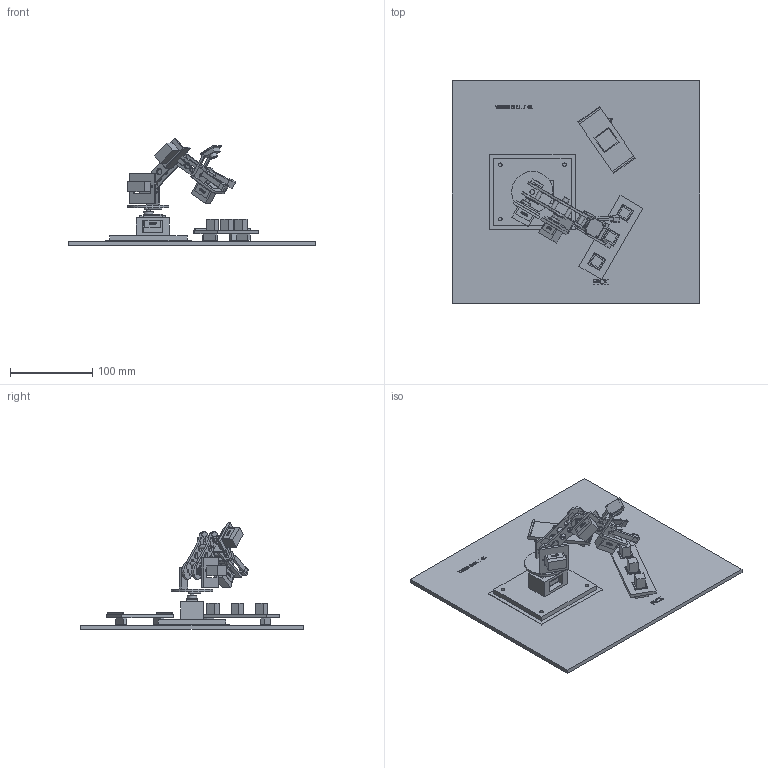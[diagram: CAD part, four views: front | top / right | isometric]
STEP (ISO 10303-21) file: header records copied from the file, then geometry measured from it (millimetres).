
FILE_DESCRIPTION(('Open CASCADE Model'),'2;1');
FILE_NAME('Open CASCADE Shape Model','2026-10-04T13:23:50',('Author'),( 'Open CASCADE'),'Open CASCADE STEP processor 7.8','Open CASCADE 7.8' ,'Unknown');
FILE_SCHEMA(('AUTOMOTIVE_DESIGN { 1 0 10303 214 1 1 1 1 }'));
Length unit declared in the file: millimetre
Products named in the file (65): SG90 arm with wrist camera; base; yaw-servo-cradle; S1-base-SG90; turntable; shoulder-mount; shoulder-idler-post; S2-shoulder-SG90; upper-cheek--7; upper-cheek-7; upper-spacer-12; upper-spacer-43; upper-idler; fore-cheek--7; fore-cheek-7; fore-spacer-12; fore-spacer-33; fore-idler; elbow-cradle; elbow-mount-bridge; S3-elbow-SG90; upper-supplied-horn; fore-supplied-horn; S4-gripper-SG90; gripper-cradle; gripper-horn; yaw-horn; S1-base-SG90-label; S1-base-SG90-label-text; S2-shoulder-SG90-label; S2-shoulder-SG90-label-text; S3-elbow-SG90-label; S3-elbow-SG90-label-text; S4-gripper-SG90-label; S4-gripper-SG90-label-text; vision-fixed-jaw; vision-moving-jaw; vision-fixed-pad; vision-moving-pad; camera-mount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
Assembly tree (64 placements, depth 2):
  SG90 arm with wrist camera
    base
    yaw-servo-cradle
    S1-base-SG90
    turntable
    shoulder-mount
    shoulder-idler-post
    S2-shoulder-SG90
    upper-cheek--7
    upper-cheek-7
    upper-spacer-12
    upper-spacer-43
    upper-idler
    fore-cheek--7
    fore-cheek-7
    fore-spacer-12
    fore-spacer-33
    fore-idler
    elbow-cradle
    elbow-mount-bridge
    S3-elbow-SG90
    upper-supplied-horn
    fore-supplied-horn
    S4-gripper-SG90
    gripper-cradle
    gripper-horn
    yaw-horn
    S1-base-SG90-label
    S1-base-SG90-label-text
    S2-shoulder-SG90-label
    S2-shoulder-SG90-label-text
    S3-elbow-SG90-label
    S3-elbow-SG90-label-text
    S4-gripper-SG90-label
    S4-gripper-SG90-label-text
    vision-fixed-jaw
    vision-moving-jaw
    vision-fixed-pad
    vision-moving-pad
    camera-mount
    camera-board
    camera-body
    camera-lens-barrel
    camera-optical-glass
    camera-status-led
    work-cell
    arm-plinth
    source-deck
    source-foot--40.0
    source-foot-40.0
    source-slot--34.0
    source-slot-0.0
    source-slot-34.0
    destination-deck
    destination-foot--28.0
    destination-foot-28.0
    destination-outline
    tray-rim--36
    tray-rim-36
    blue-distractor
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Bounding box: 300 x 270 x 129.75 mm (x, y, z)
Volume: 583428.8 mm3; surface area: 273736 mm2
Topology: 94 solids, 94 shells, 1275 faces, 3169 edges, 2072 vertices
Faces by surface type: plane 730, extrusion 468, cylinder 77
Full cylindrical faces by diameter (mm): 1.6 x4, 1.8 x1, 2.2 x8, 2.4 x2, 4 x8, 4.4 x4, 4.8 x4, 5.2 x4, 6 x1, 6.6 x1, 7.2 x2, 7.6 x6, 9 x1, 11.4 x4, 50 x1
Entity records: 81544 total; most frequent: CARTESIAN_POINT 18283, DIRECTION 9959, VECTOR 7611, LINE 7143, ORIENTED_EDGE 6338, PCURVE 6338, DEFINITIONAL_REPRESENTATION 6338, EDGE_CURVE 3169
